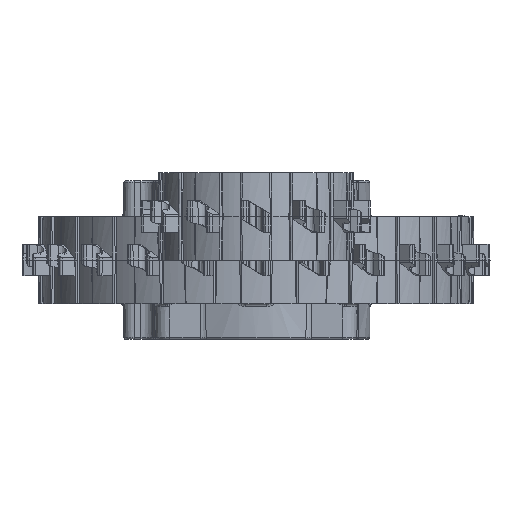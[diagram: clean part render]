
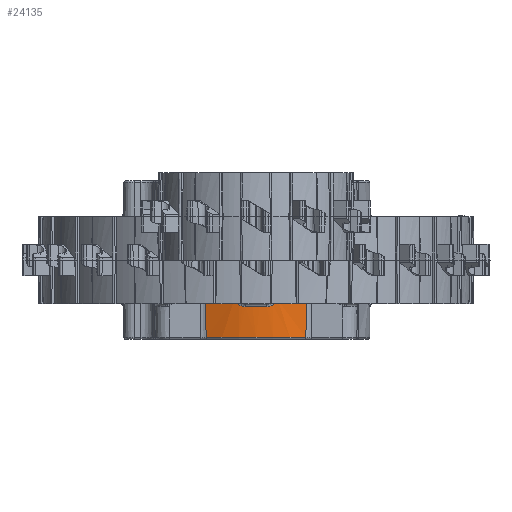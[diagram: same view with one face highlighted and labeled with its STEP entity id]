
A CAD part, left-side view. The second image highlights one B-rep face of the part: STEP entity #24135.
In plain terms, the highlighted conical face has half-angle 1 degrees and reference radius 28.988 mm.
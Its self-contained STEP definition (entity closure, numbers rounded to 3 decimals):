
#22493=B_SPLINE_CURVE_WITH_KNOTS('',3,(#98261,#98262,#98263,#98264,#98265,
#98266,#98267),.UNSPECIFIED.,.F.,.F.,(4,3,4),(0.,0.671,1.),
 .UNSPECIFIED.);
#22494=B_SPLINE_CURVE_WITH_KNOTS('',3,(#98269,#98270,#98271,#98272,#98273,
#98274,#98275,#98276,#98277,#98278,#98279,#98280,#98281),.UNSPECIFIED.,
 .F.,.F.,(4,3,3,3,4),(0.,0.003,0.395,0.765,
1.),.UNSPECIFIED.);
#22495=B_SPLINE_CURVE_WITH_KNOTS('',3,(#98285,#98286,#98287,#98288,#98289,
#98290,#98291,#98292,#98293,#98294,#98295,#98296,#98297),.UNSPECIFIED.,
 .F.,.F.,(4,3,3,3,4),(0.,0.235,0.605,0.997,
1.),.UNSPECIFIED.);
#22496=B_SPLINE_CURVE_WITH_KNOTS('',3,(#98299,#98300,#98301,#98302,#98303,
#98304,#98305),.UNSPECIFIED.,.F.,.F.,(4,3,4),(0.,0.773,1.),
 .UNSPECIFIED.);
#24135=ADVANCED_FACE('',(#27701),#26116,.T.);
#26116=CONICAL_SURFACE('',#68190,28.988,1.);
#27701=FACE_OUTER_BOUND('',#30550,.T.);
#30550=EDGE_LOOP('',(#40195,#40196,#40197,#40198,#40199,#40200,#40201,#40202,
#40203,#40204));
#33322=CIRCLE('',#68186,28.963);
#33323=CIRCLE('',#68187,28.818);
#33324=CIRCLE('',#68188,28.963);
#33325=CIRCLE('',#68189,28.683);
#40195=ORIENTED_EDGE('',*,*,#55697,.T.);
#40196=ORIENTED_EDGE('',*,*,#55698,.T.);
#40197=ORIENTED_EDGE('',*,*,#55699,.T.);
#40198=ORIENTED_EDGE('',*,*,#55700,.T.);
#40199=ORIENTED_EDGE('',*,*,#55701,.T.);
#40200=ORIENTED_EDGE('',*,*,#55702,.T.);
#40201=ORIENTED_EDGE('',*,*,#55703,.T.);
#40202=ORIENTED_EDGE('',*,*,#55704,.T.);
#40203=ORIENTED_EDGE('',*,*,#55705,.T.);
#40204=ORIENTED_EDGE('',*,*,#55706,.T.);
#50537=VERTEX_POINT('',#98257);
#50538=VERTEX_POINT('',#98258);
#50539=VERTEX_POINT('',#98260);
#50540=VERTEX_POINT('',#98268);
#50541=VERTEX_POINT('',#98282);
#50542=VERTEX_POINT('',#98284);
#50543=VERTEX_POINT('',#98298);
#50544=VERTEX_POINT('',#98306);
#50545=VERTEX_POINT('',#98308);
#50546=VERTEX_POINT('',#98310);
#55697=EDGE_CURVE('',#50537,#50538,#61192,.T.);
#55698=EDGE_CURVE('',#50538,#50539,#33322,.T.);
#55699=EDGE_CURVE('',#50539,#50540,#22493,.T.);
#55700=EDGE_CURVE('',#50540,#50541,#22494,.T.);
#55701=EDGE_CURVE('',#50541,#50542,#33323,.T.);
#55702=EDGE_CURVE('',#50542,#50543,#22495,.T.);
#55703=EDGE_CURVE('',#50543,#50544,#22496,.T.);
#55704=EDGE_CURVE('',#50544,#50545,#33324,.T.);
#55705=EDGE_CURVE('',#50545,#50546,#61193,.T.);
#55706=EDGE_CURVE('',#50546,#50537,#33325,.T.);
#61192=LINE('',#98256,#64824);
#61193=LINE('',#98309,#64825);
#64824=VECTOR('',#76140,1.);
#64825=VECTOR('',#76147,1.);
#68186=AXIS2_PLACEMENT_3D('',#98259,#76141,#76142);
#68187=AXIS2_PLACEMENT_3D('',#98283,#76143,#76144);
#68188=AXIS2_PLACEMENT_3D('',#98307,#76145,#76146);
#68189=AXIS2_PLACEMENT_3D('',#98311,#76148,#76149);
#68190=AXIS2_PLACEMENT_3D('',#98312,#76150,#76151);
#76140=DIRECTION('',(-0.016,-0.008,1.));
#76141=DIRECTION('',(0.,0.,-1.));
#76142=DIRECTION('',(-1.,0.,0.));
#76143=DIRECTION('',(0.,0.,-1.));
#76144=DIRECTION('',(-1.,0.,0.));
#76145=DIRECTION('',(0.,0.,-1.));
#76146=DIRECTION('',(-1.,0.,0.));
#76147=DIRECTION('',(0.016,-0.008,-1.));
#76148=DIRECTION('',(0.,0.,1.));
#76149=DIRECTION('',(1.,0.,0.));
#76150=DIRECTION('',(0.,0.,1.));
#76151=DIRECTION('',(-1.,0.,0.));
#98256=CARTESIAN_POINT('',(153.956,-12.729,-12.995));
#98257=CARTESIAN_POINT('',(154.23,-12.595,-30.497));
#98258=CARTESIAN_POINT('',(153.979,-12.718,-14.468));
#98259=CARTESIAN_POINT('',(180.,0.,-14.468));
#98260=CARTESIAN_POINT('',(151.598,-5.669,-14.468));
#98261=CARTESIAN_POINT('',(151.598,-5.669,-14.468));
#98262=CARTESIAN_POINT('',(151.62,-5.645,-15.976));
#98263=CARTESIAN_POINT('',(151.642,-5.621,-17.483));
#98264=CARTESIAN_POINT('',(151.664,-5.597,-18.991));
#98265=CARTESIAN_POINT('',(151.674,-5.585,-19.729));
#98266=CARTESIAN_POINT('',(151.685,-5.573,-20.467));
#98267=CARTESIAN_POINT('',(151.696,-5.561,-21.205));
#98268=CARTESIAN_POINT('',(151.696,-5.561,-21.205));
#98269=CARTESIAN_POINT('',(151.696,-5.561,-21.205));
#98270=CARTESIAN_POINT('',(151.696,-5.559,-21.207));
#98271=CARTESIAN_POINT('',(151.695,-5.557,-21.209));
#98272=CARTESIAN_POINT('',(151.695,-5.554,-21.211));
#98273=CARTESIAN_POINT('',(151.637,-5.234,-21.507));
#98274=CARTESIAN_POINT('',(151.584,-4.909,-21.803));
#98275=CARTESIAN_POINT('',(151.532,-4.556,-22.061));
#98276=CARTESIAN_POINT('',(151.483,-4.225,-22.304));
#98277=CARTESIAN_POINT('',(151.435,-3.862,-22.516));
#98278=CARTESIAN_POINT('',(151.39,-3.472,-22.645));
#98279=CARTESIAN_POINT('',(151.361,-3.224,-22.728));
#98280=CARTESIAN_POINT('',(151.334,-2.96,-22.777));
#98281=CARTESIAN_POINT('',(151.309,-2.698,-22.777));
#98282=CARTESIAN_POINT('',(151.309,-2.698,-22.777));
#98283=CARTESIAN_POINT('',(180.,0.,-22.777));
#98284=CARTESIAN_POINT('',(151.309,2.698,-22.777));
#98285=CARTESIAN_POINT('',(151.309,2.698,-22.777));
#98286=CARTESIAN_POINT('',(151.334,2.96,-22.777));
#98287=CARTESIAN_POINT('',(151.361,3.224,-22.728));
#98288=CARTESIAN_POINT('',(151.39,3.472,-22.645));
#98289=CARTESIAN_POINT('',(151.435,3.862,-22.516));
#98290=CARTESIAN_POINT('',(151.483,4.225,-22.304));
#98291=CARTESIAN_POINT('',(151.532,4.556,-22.061));
#98292=CARTESIAN_POINT('',(151.584,4.909,-21.803));
#98293=CARTESIAN_POINT('',(151.637,5.234,-21.507));
#98294=CARTESIAN_POINT('',(151.695,5.554,-21.211));
#98295=CARTESIAN_POINT('',(151.695,5.557,-21.209));
#98296=CARTESIAN_POINT('',(151.696,5.559,-21.207));
#98297=CARTESIAN_POINT('',(151.696,5.561,-21.205));
#98298=CARTESIAN_POINT('',(151.696,5.561,-21.205));
#98299=CARTESIAN_POINT('',(151.696,5.561,-21.205));
#98300=CARTESIAN_POINT('',(151.671,5.589,-19.469));
#98301=CARTESIAN_POINT('',(151.645,5.617,-17.732));
#98302=CARTESIAN_POINT('',(151.62,5.645,-15.995));
#98303=CARTESIAN_POINT('',(151.612,5.653,-15.486));
#98304=CARTESIAN_POINT('',(151.605,5.661,-14.977));
#98305=CARTESIAN_POINT('',(151.598,5.669,-14.468));
#98306=CARTESIAN_POINT('',(151.598,5.669,-14.468));
#98307=CARTESIAN_POINT('',(180.,0.,-14.468));
#98308=CARTESIAN_POINT('',(153.979,12.718,-14.468));
#98309=CARTESIAN_POINT('',(153.956,12.729,-12.995));
#98310=CARTESIAN_POINT('',(154.23,12.595,-30.497));
#98311=CARTESIAN_POINT('',(180.,0.,-30.497));
#98312=CARTESIAN_POINT('',(180.,0.,-12.995));
